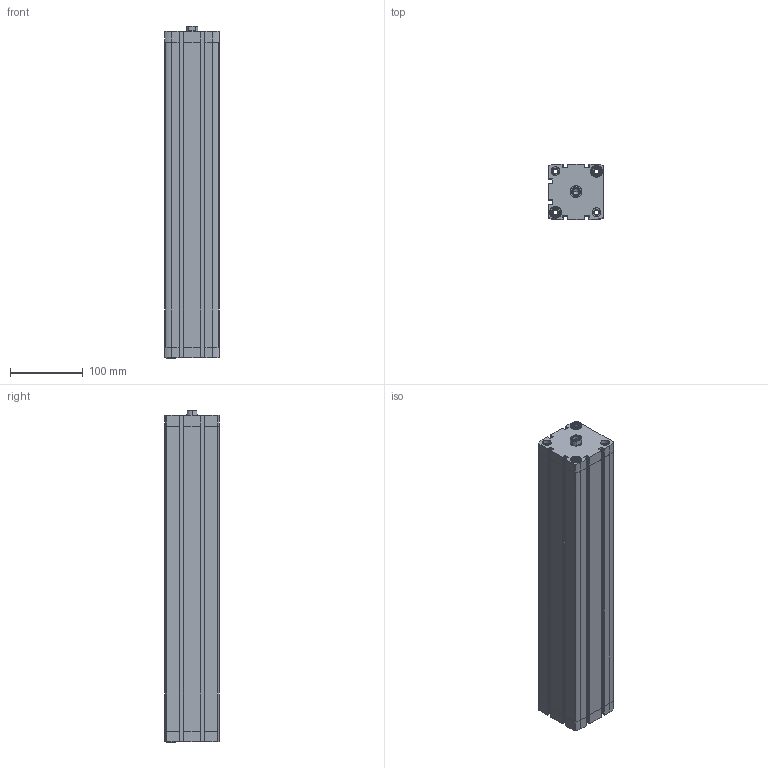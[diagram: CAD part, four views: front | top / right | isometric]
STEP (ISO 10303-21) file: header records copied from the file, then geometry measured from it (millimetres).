
FILE_DESCRIPTION (( 'STEP AP203' ), '1' );
FILE_NAME ('CCN63-400F.STEP', '2017-04-05T16:38:22', ( '' ), ( '' ), 'SwSTEP 2.0', 'SolidWorks 2016', '' );
FILE_SCHEMA (( 'CONFIG_CONTROL_DESIGN' ));
Length unit declared in the file: millimetre
Products named in the file (3): CCN-400---(Z); CCN-400_(KS); CCN63-400F
Assembly tree (2 placements, depth 2):
  CCN63-400F
    CCN-400---(Z)
    CCN-400_(KS)
Bounding box: 75.5 x 75.5 x 456.5 mm (x, y, z)
Volume: 1190300.9 mm3; surface area: 336862.5 mm2
Topology: 2 solids, 2 shells, 471 faces, 1274 edges, 837 vertices
Faces by surface type: plane 219, cylinder 210, cone 42
Entity records: 15309 total; most frequent: CARTESIAN_POINT 2879, DIRECTION 2596, ORIENTED_EDGE 2544, EDGE_CURVE 1272, AXIS2_PLACEMENT_3D 946, VERTEX_POINT 837, LINE 704, VECTOR 704
